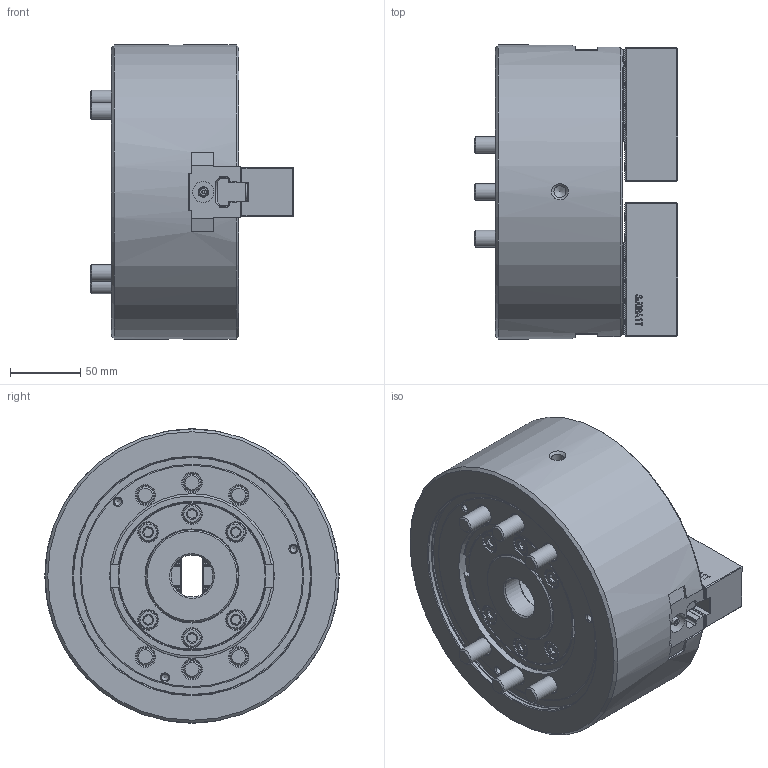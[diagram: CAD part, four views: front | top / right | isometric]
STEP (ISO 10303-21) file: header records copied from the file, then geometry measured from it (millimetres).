
FILE_DESCRIPTION (( 'STEP AP214' ), '1' );
FILE_NAME ('DT1_BT208_OUTSIDE_VIEW_HOL.STEP', '2024-05-09T00:42:03', ( '' ), ( '' ), 'SwSTEP 2.0', 'SolidWorks 2022', '' );
FILE_SCHEMA (( 'AUTOMOTIVE_DESIGN' ));
Length unit declared in the file: millimetre
Products named in the file (9): DT1_BT208_SOFTJAW^DT1-BT208_ﾃﾞﾌｫﾙﾄ; DT1_BT208_BASE^DT1-BT208_ﾃﾞﾌｫﾙﾄ; DT1_BT208_OUTSIDE_VIEW_HOL; DT1_BT208_DRAWNUT^DT1-BT208_ﾃﾞﾌｫﾙﾄ; DT1_BT208_M5x10^DT1-BT208_ﾃﾞﾌｫﾙﾄ; DT1_BT208_TNUT^DT1-BT208_ﾃﾞﾌｫﾙﾄ; DT1_BT208_M12x30^DT1-BT208_ﾃﾞﾌｫﾙﾄ; DT1_BT208_COVER^DT1-BT208_ﾃﾞﾌｫﾙﾄ; DT1_BT208_M12x90^DT1-BT208_ﾃﾞﾌｫﾙﾄ
Assembly tree (21 placements, depth 2):
  DT1_BT208_OUTSIDE_VIEW_HOL
    DT1_BT208_SOFTJAW^DT1-BT208_ﾃﾞﾌｫﾙﾄ  x2
    DT1_BT208_TNUT^DT1-BT208_ﾃﾞﾌｫﾙﾄ  x2
    DT1_BT208_DRAWNUT^DT1-BT208_ﾃﾞﾌｫﾙﾄ
    DT1_BT208_COVER^DT1-BT208_ﾃﾞﾌｫﾙﾄ
    DT1_BT208_BASE^DT1-BT208_ﾃﾞﾌｫﾙﾄ
    DT1_BT208_M5x10^DT1-BT208_ﾃﾞﾌｫﾙﾄ  x4
    DT1_BT208_M12x30^DT1-BT208_ﾃﾞﾌｫﾙﾄ  x4
    DT1_BT208_M12x90^DT1-BT208_ﾃﾞﾌｫﾙﾄ  x6
Bounding box: 145 x 210 x 210 mm (x, y, z)
Volume: 3018976.5 mm3; surface area: 320973.5 mm2
Topology: 21 solids, 21 shells, 3210 faces, 9003 edges, 5946 vertices
Faces by surface type: plane 2121, cylinder 590, bspline 282, cone 192, torus 23, sphere 2
Full cylindrical faces by diameter (mm): 2 x2, 4.2 x4, 5 x7, 5.5 x4, 8.5 x2, 9.5 x4, 10 x4, 10.2 x4, 12 x10, 13 x4, 13.27 x6, 13.5 x6, 14 x6, 15 x2, 18.27 x10, 19 x4, 20 x6, 30 x1, 52 x1, 56 x2, 61 x1, 64.8 x2, 66 x2, 72 x2, 105.2 x1, 117.5 x1, 170 x1, 170.8 x1, 210 x1
Entity records: 81487 total; most frequent: CARTESIAN_POINT 25044, ORIENTED_EDGE 12684, DIRECTION 9774, EDGE_CURVE 6342, VECTOR 4640, LINE 4640, VERTEX_POINT 4281, EDGE_LOOP 2615
